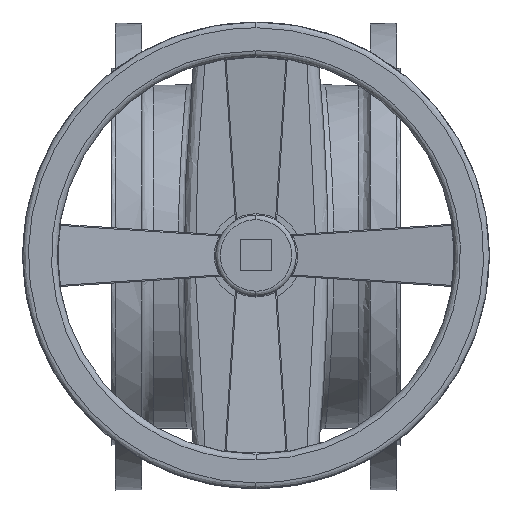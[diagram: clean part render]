
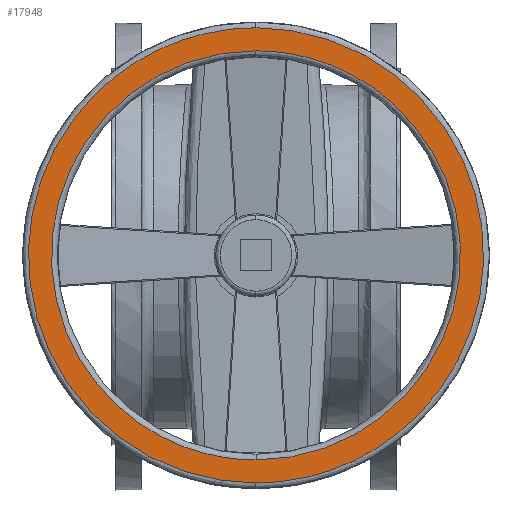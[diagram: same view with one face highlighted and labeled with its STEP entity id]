
A CAD part, top view. The second image highlights one B-rep face of the part: STEP entity #17948.
In plain terms, the highlighted planar face has unit normal (0, 0, 1).
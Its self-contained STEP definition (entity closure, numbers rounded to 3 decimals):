
#95 = CARTESIAN_POINT ( 'NONE',  ( 0., 197.5, 625. ) ) ;
#2039 = DIRECTION ( 'NONE',  ( 1., 0., 0. ) ) ;
#3473 =( BOUNDED_CURVE ( )  B_SPLINE_CURVE ( 3, ( #19039, #30844, #4094, #25032 ),
 .UNSPECIFIED., .F., .F. ) 
 B_SPLINE_CURVE_WITH_KNOTS ( ( 4, 4 ),
 ( 0.75, 1.25 ),
 .UNSPECIFIED. ) 
 CURVE ( )  GEOMETRIC_REPRESENTATION_ITEM ( )  RATIONAL_B_SPLINE_CURVE ( ( 1., 0.333, 0.333, 1. ) ) 
 REPRESENTATION_ITEM ( '' )  );
#4094 = CARTESIAN_POINT ( 'NONE',  ( -395., 197.5, 625. ) ) ;
#5909 = EDGE_LOOP ( 'NONE', ( #27083, #28297 ) ) ;
#6544 =( BOUNDED_CURVE ( )  B_SPLINE_CURVE ( 3, ( #16506, #13494, #37577, #19532 ),
 .UNSPECIFIED., .F., .T. ) 
 B_SPLINE_CURVE_WITH_KNOTS ( ( 4, 4 ),
 ( 0.25, 0.75 ),
 .UNSPECIFIED. ) 
 CURVE ( )  GEOMETRIC_REPRESENTATION_ITEM ( )  RATIONAL_B_SPLINE_CURVE ( ( 1., 0.333, 0.333, 1. ) ) 
 REPRESENTATION_ITEM ( '' )  );
#6747 = CARTESIAN_POINT ( 'NONE',  ( -355., 177.5, 625. ) ) ;
#6886 = CARTESIAN_POINT ( 'NONE',  ( 355., -177.5, 625. ) ) ;
#7014 = CARTESIAN_POINT ( 'NONE',  ( 0., -177.5, 625. ) ) ;
#7020 = ORIENTED_EDGE ( 'NONE', *, *, #37449, .F. ) ;
#7872 = CARTESIAN_POINT ( 'NONE',  ( 0., 177.5, 625. ) ) ;
#9774 = CARTESIAN_POINT ( 'NONE',  ( 0., -177.5, 625. ) ) ;
#10957 = CARTESIAN_POINT ( 'NONE',  ( 199.87, -199.87, 625. ) ) ;
#13494 = CARTESIAN_POINT ( 'NONE',  ( 395., 197.5, 625. ) ) ;
#14960 = EDGE_CURVE ( 'NONE', #36655, #24274, #22147, .T. ) ;
#15636 = ORIENTED_EDGE ( 'NONE', *, *, #14960, .F. ) ;
#15909 = CARTESIAN_POINT ( 'NONE',  ( 0., 177.5, 625. ) ) ;
#16506 = CARTESIAN_POINT ( 'NONE',  ( 0., 197.5, 625. ) ) ;
#17948 = ADVANCED_FACE ( 'NONE', ( #35304, #21145 ), #38031, .T. ) ;
#19039 = CARTESIAN_POINT ( 'NONE',  ( 0., -197.5, 625. ) ) ;
#19532 = CARTESIAN_POINT ( 'NONE',  ( 0., -197.5, 625. ) ) ;
#19961 = DIRECTION ( 'NONE',  ( 0., 0., 1. ) ) ;
#20695 =( BOUNDED_CURVE ( )  B_SPLINE_CURVE ( 3, ( #27796, #6886, #33940, #15909 ),
 .UNSPECIFIED., .F., .F. ) 
 B_SPLINE_CURVE_WITH_KNOTS ( ( 4, 4 ),
 ( 0., 0.5 ),
 .UNSPECIFIED. ) 
 CURVE ( )  GEOMETRIC_REPRESENTATION_ITEM ( )  RATIONAL_B_SPLINE_CURVE ( ( 1., 0.333, 0.333, 1. ) ) 
 REPRESENTATION_ITEM ( '' )  );
#21145 = FACE_OUTER_BOUND ( 'NONE', #5909, .T. ) ;
#22147 =( BOUNDED_CURVE ( )  B_SPLINE_CURVE ( 3, ( #27526, #6747, #27656, #9774 ),
 .UNSPECIFIED., .F., .T. ) 
 B_SPLINE_CURVE_WITH_KNOTS ( ( 4, 4 ),
 ( 0.5, 1. ),
 .UNSPECIFIED. ) 
 CURVE ( )  GEOMETRIC_REPRESENTATION_ITEM ( )  RATIONAL_B_SPLINE_CURVE ( ( 1., 0.333, 0.333, 1. ) ) 
 REPRESENTATION_ITEM ( '' )  );
#22755 = CARTESIAN_POINT ( 'NONE',  ( 0., -197.5, 625. ) ) ;
#24274 = VERTEX_POINT ( 'NONE', #7014 ) ;
#24536 = EDGE_CURVE ( 'NONE', #28672, #36640, #6544, .T. ) ;
#25032 = CARTESIAN_POINT ( 'NONE',  ( 0., 197.5, 625. ) ) ;
#27083 = ORIENTED_EDGE ( 'NONE', *, *, #30549, .F. ) ;
#27526 = CARTESIAN_POINT ( 'NONE',  ( 0., 177.5, 625. ) ) ;
#27656 = CARTESIAN_POINT ( 'NONE',  ( -355., -177.5, 625. ) ) ;
#27796 = CARTESIAN_POINT ( 'NONE',  ( 0., -177.5, 625. ) ) ;
#28297 = ORIENTED_EDGE ( 'NONE', *, *, #24536, .F. ) ;
#28672 = VERTEX_POINT ( 'NONE', #95 ) ;
#30549 = EDGE_CURVE ( 'NONE', #36640, #28672, #3473, .T. ) ;
#30844 = CARTESIAN_POINT ( 'NONE',  ( -395., -197.5, 625. ) ) ;
#30881 = EDGE_LOOP ( 'NONE', ( #7020, #15636 ) ) ;
#33940 = CARTESIAN_POINT ( 'NONE',  ( 355., 177.5, 625. ) ) ;
#35304 = FACE_BOUND ( 'NONE', #30881, .T. ) ;
#36347 = AXIS2_PLACEMENT_3D ( 'NONE', #10957, #19961, #2039 ) ;
#36640 = VERTEX_POINT ( 'NONE', #22755 ) ;
#36655 = VERTEX_POINT ( 'NONE', #7872 ) ;
#37449 = EDGE_CURVE ( 'NONE', #24274, #36655, #20695, .T. ) ;
#37577 = CARTESIAN_POINT ( 'NONE',  ( 395., -197.5, 625. ) ) ;
#38031 = PLANE ( 'NONE',  #36347 ) ;
